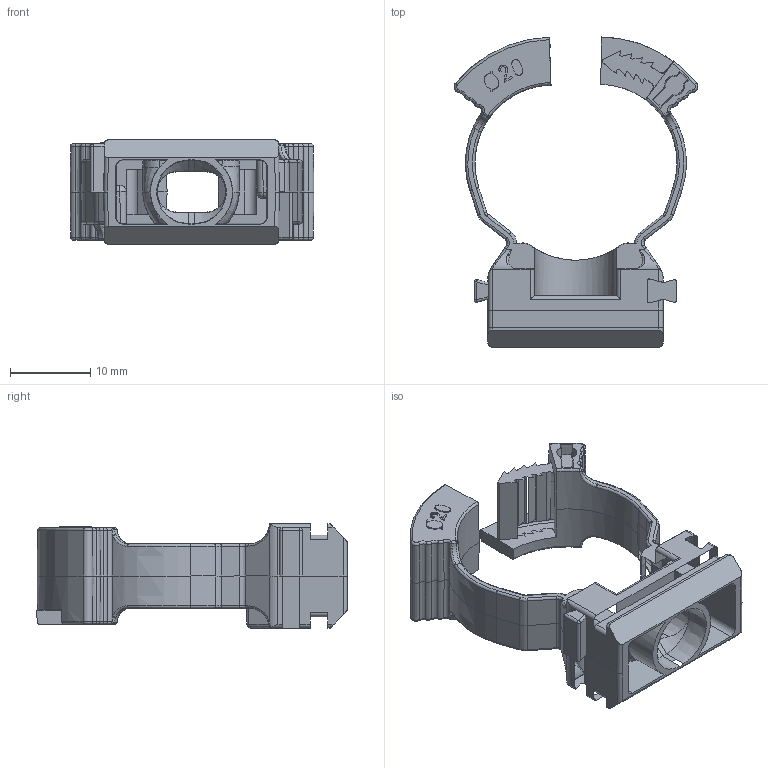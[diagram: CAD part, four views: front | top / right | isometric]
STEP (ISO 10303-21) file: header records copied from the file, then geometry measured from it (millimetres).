
FILE_DESCRIPTION(/* description */ (''),/* implementation_level */ '2;1');
FILE_NAME(/* name */ '4007003.stp',/* time_stamp */ '2016-09-28T20:18:10+02:00',/* author */ (''),/* organization */ (''),/* preprocessor_version */ 'ST-DEVELOPER v16',/* originating_system */ 'SIEMENS PLM Software NX 11.0',/* authorisation */ '');
FILE_SCHEMA (('AUTOMOTIVE_DESIGN { 1 0 10303 214 3 1 1 1 }'));
Length unit declared in the file: millimetre
Products named in the file (1): 4007003_LINKEDEXT_jt
Bounding box: 30.43 x 38.74 x 13 mm (x, y, z)
Surface area: 3522.8 mm2 (no closed solid volume)
Topology: 0 solids, 5 shells, 404 faces, 1219 edges, 773 vertices
Faces by surface type: plane 119, cylinder 119, bspline 66, cone 36, torus 36, sphere 12, revolution 11, extrusion 5
Entity records: 16575 total; most frequent: CARTESIAN_POINT 6318, ORIENTED_EDGE 2099, DIRECTION 2032, EDGE_CURVE 1203, VERTEX_POINT 773, AXIS2_PLACEMENT_3D 754, VECTOR 513, LINE 508
